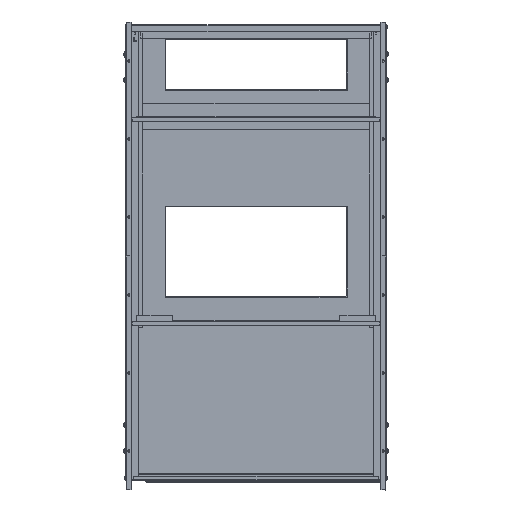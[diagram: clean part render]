
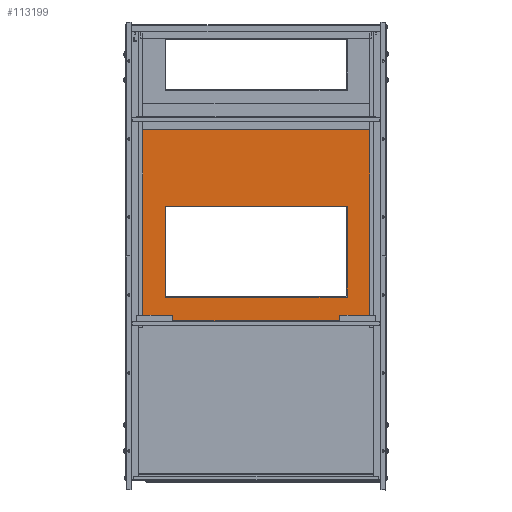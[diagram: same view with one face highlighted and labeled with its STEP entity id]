
A CAD part, top view. The second image highlights one B-rep face of the part: STEP entity #113199.
In plain terms, the highlighted planar face has unit normal (0, 0, 1).
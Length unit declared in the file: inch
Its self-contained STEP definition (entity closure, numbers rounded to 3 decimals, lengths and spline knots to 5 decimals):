
#933 = CARTESIAN_POINT ( 'NONE',  ( 16.09851, 9.14553, 3.97864 ) ) ;
#1780 = ORIENTED_EDGE ( 'NONE', *, *, #115100, .T. ) ;
#7329 = VECTOR ( 'NONE', #171543, 39.37008 ) ;
#7576 = ORIENTED_EDGE ( 'NONE', *, *, #201526, .F. ) ;
#7625 = CARTESIAN_POINT ( 'NONE',  ( 20.47351, 24.89553, 3.97864 ) ) ;
#12175 = EDGE_LOOP ( 'NONE', ( #104516, #83599, #58965, #7576 ) ) ;
#23594 = DIRECTION ( 'NONE',  ( -1., 0., 0. ) ) ;
#24689 = CARTESIAN_POINT ( 'NONE',  ( -11.90149, 9.14554, 3.97864 ) ) ;
#31254 = LINE ( 'NONE', #7625, #154076 ) ;
#31781 = LINE ( 'NONE', #103566, #111976 ) ;
#32633 = EDGE_CURVE ( 'NONE', #125503, #108805, #77346, .T. ) ;
#35214 = FACE_OUTER_BOUND ( 'NONE', #63406, .T. ) ;
#39711 = ORIENTED_EDGE ( 'NONE', *, *, #53703, .T. ) ;
#42689 = VECTOR ( 'NONE', #127403, 39.37008 ) ;
#53397 = CARTESIAN_POINT ( 'NONE',  ( 16.09851, 9.14553, 3.97864 ) ) ;
#53703 = EDGE_CURVE ( 'NONE', #124588, #146230, #85172, .T. ) ;
#54887 = CARTESIAN_POINT ( 'NONE',  ( -16.27649, -8.47946, 3.97864 ) ) ;
#55979 = DIRECTION ( 'NONE',  ( 1., 0., 0. ) ) ;
#56774 = CARTESIAN_POINT ( 'NONE',  ( -16.27649, 24.89554, 3.97864 ) ) ;
#58965 = ORIENTED_EDGE ( 'NONE', *, *, #60958, .F. ) ;
#60958 = EDGE_CURVE ( 'NONE', #72758, #182725, #61990, .T. ) ;
#61990 = LINE ( 'NONE', #933, #147272 ) ;
#62594 = VERTEX_POINT ( 'NONE', #74184 ) ;
#63406 = EDGE_LOOP ( 'NONE', ( #39711, #82495, #84723, #1780 ) ) ;
#63819 = VECTOR ( 'NONE', #67405, 39.37008 ) ;
#67405 = DIRECTION ( 'NONE',  ( -1., 0., 0. ) ) ;
#68387 = LINE ( 'NONE', #173318, #191190 ) ;
#71879 = AXIS2_PLACEMENT_3D ( 'NONE', #94659, #206642, #110825 ) ;
#72758 = VERTEX_POINT ( 'NONE', #186175 ) ;
#72808 = DIRECTION ( 'NONE',  ( 0., -1., 0. ) ) ;
#74184 = CARTESIAN_POINT ( 'NONE',  ( -11.90149, -4.85446, 3.97864 ) ) ;
#74792 = EDGE_CURVE ( 'NONE', #112037, #62594, #68387, .T. ) ;
#77346 = LINE ( 'NONE', #56774, #162627 ) ;
#80648 = DIRECTION ( 'NONE',  ( 0., 1., 0. ) ) ;
#82495 = ORIENTED_EDGE ( 'NONE', *, *, #142247, .T. ) ;
#83599 = ORIENTED_EDGE ( 'NONE', *, *, #121332, .F. ) ;
#84723 = ORIENTED_EDGE ( 'NONE', *, *, #32633, .T. ) ;
#85172 = LINE ( 'NONE', #207184, #42689 ) ;
#94659 = CARTESIAN_POINT ( 'NONE',  ( -16.27649, -8.47946, 3.97864 ) ) ;
#96454 = CARTESIAN_POINT ( 'NONE',  ( -16.27649, 24.89554, 3.97864 ) ) ;
#103566 = CARTESIAN_POINT ( 'NONE',  ( -11.90149, -4.85446, 3.97864 ) ) ;
#104516 = ORIENTED_EDGE ( 'NONE', *, *, #74792, .F. ) ;
#105600 = CARTESIAN_POINT ( 'NONE',  ( 20.47351, 24.89553, 3.97864 ) ) ;
#108805 = VERTEX_POINT ( 'NONE', #54887 ) ;
#110825 = DIRECTION ( 'NONE',  ( 0., 1., 0. ) ) ;
#111976 = VECTOR ( 'NONE', #55979, 39.37008 ) ;
#112037 = VERTEX_POINT ( 'NONE', #24689 ) ;
#113199 = ADVANCED_FACE ( 'NONE', ( #35214, #162992 ), #126184, .F. ) ;
#115100 = EDGE_CURVE ( 'NONE', #108805, #124588, #172567, .T. ) ;
#121332 = EDGE_CURVE ( 'NONE', #182725, #112037, #149143, .T. ) ;
#124588 = VERTEX_POINT ( 'NONE', #164784 ) ;
#125503 = VERTEX_POINT ( 'NONE', #96454 ) ;
#126184 = PLANE ( 'NONE',  #71879 ) ;
#127403 = DIRECTION ( 'NONE',  ( 0., 1., 0. ) ) ;
#142247 = EDGE_CURVE ( 'NONE', #146230, #125503, #31254, .T. ) ;
#146230 = VERTEX_POINT ( 'NONE', #105600 ) ;
#147272 = VECTOR ( 'NONE', #80648, 39.37008 ) ;
#147315 = CARTESIAN_POINT ( 'NONE',  ( -11.90149, 9.14554, 3.97864 ) ) ;
#149143 = LINE ( 'NONE', #147315, #63819 ) ;
#154076 = VECTOR ( 'NONE', #23594, 39.37008 ) ;
#162627 = VECTOR ( 'NONE', #72808, 39.37008 ) ;
#162992 = FACE_BOUND ( 'NONE', #12175, .T. ) ;
#164784 = CARTESIAN_POINT ( 'NONE',  ( 20.47351, -8.47947, 3.97864 ) ) ;
#171543 = DIRECTION ( 'NONE',  ( 1., 0., 0. ) ) ;
#172567 = LINE ( 'NONE', #186202, #7329 ) ;
#173318 = CARTESIAN_POINT ( 'NONE',  ( -11.90149, 9.14554, 3.97864 ) ) ;
#182725 = VERTEX_POINT ( 'NONE', #53397 ) ;
#186175 = CARTESIAN_POINT ( 'NONE',  ( 16.09851, -4.85447, 3.97864 ) ) ;
#186202 = CARTESIAN_POINT ( 'NONE',  ( 20.47351, -8.47947, 3.97864 ) ) ;
#189357 = DIRECTION ( 'NONE',  ( 0., -1., 0. ) ) ;
#191190 = VECTOR ( 'NONE', #189357, 39.37008 ) ;
#201526 = EDGE_CURVE ( 'NONE', #62594, #72758, #31781, .T. ) ;
#206642 = DIRECTION ( 'NONE',  ( 0., 0., -1. ) ) ;
#207184 = CARTESIAN_POINT ( 'NONE',  ( 20.47351, 24.89553, 3.97864 ) ) ;
